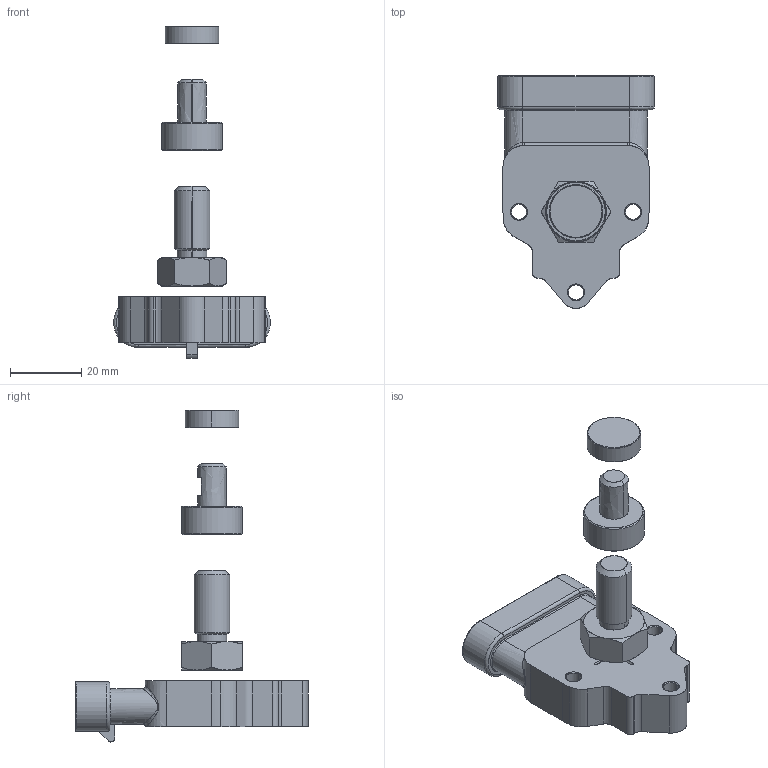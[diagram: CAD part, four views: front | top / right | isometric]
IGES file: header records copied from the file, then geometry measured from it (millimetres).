
Start section: SolidWorks IGES file using analytic representation for surfaces
Global section: file name: \\srv4gefran\Dir-Cat\Disegni Catalogo\Mobile\GRN\GRN 6P\3D\Solidworks 2015\GRN-6P-AMP\GRN 6P AMP.IGS; native system: SolidWorks 2015; preprocessor: SolidWorks 2015; author: Loda-w1; date: 160128.185413; units: millimetre
Bounding box: 44 x 65.35 x 93.2 mm (x, y, z)
Surface area: 16732.5 mm2 (no closed solid volume)
Topology: 0 solids, 0 shells, 460 faces, 9266 edges, 11512 vertices
Faces by surface type: bspline 303, revolution 157
